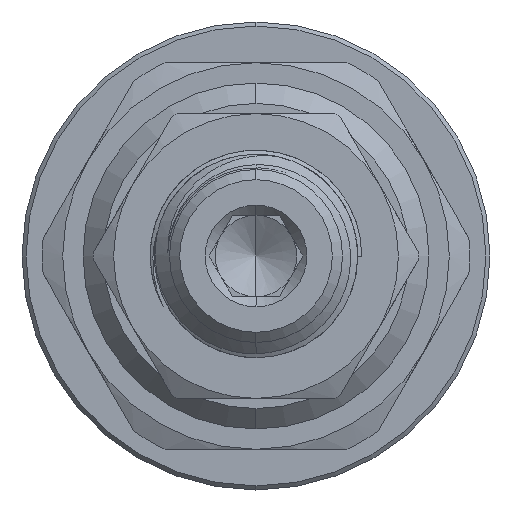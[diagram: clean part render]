
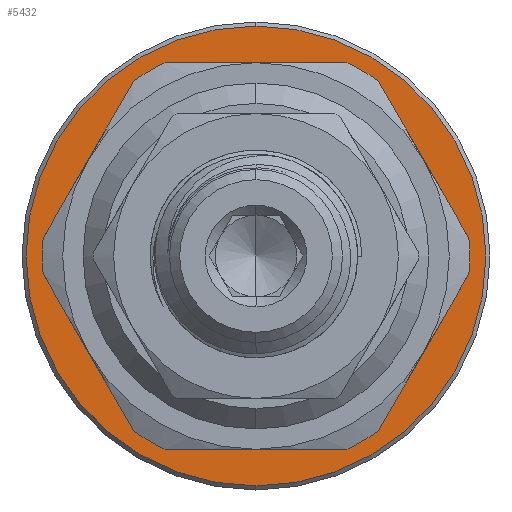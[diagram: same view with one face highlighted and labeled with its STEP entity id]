
A CAD part, left-side view. The second image highlights one B-rep face of the part: STEP entity #5432.
In plain terms, the highlighted planar face has unit normal (-1, 0, 0).
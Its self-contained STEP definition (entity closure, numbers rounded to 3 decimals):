
#321 = CARTESIAN_POINT ( 'NONE',  ( -18.729, 12.643, 0.877 ) ) ;
#541 = ORIENTED_EDGE ( 'NONE', *, *, #12375, .F. ) ;
#623 = CARTESIAN_POINT ( 'NONE',  ( -18.729, 2.179, -11.3 ) ) ;
#794 = CIRCLE ( 'NONE', #17311, 10.5 ) ;
#858 = CARTESIAN_POINT ( 'NONE',  ( -18.729, -8.284, -0.877 ) ) ;
#904 = CARTESIAN_POINT ( 'NONE',  ( -18.729, -3.812, 8.623 ) ) ;
#928 = EDGE_CURVE ( 'NONE', #2138, #5503, #5532, .T. ) ;
#1032 = DIRECTION ( 'NONE',  ( -1., 0., 0. ) ) ;
#1080 = CARTESIAN_POINT ( 'NONE',  ( -18.729, -2.293, 9.5 ) ) ;
#1430 = EDGE_CURVE ( 'NONE', #11497, #5741, #12628, .T. ) ;
#2138 = VERTEX_POINT ( 'NONE', #14778 ) ;
#2178 = ORIENTED_EDGE ( 'NONE', *, *, #18066, .F. ) ;
#2241 = FACE_BOUND ( 'NONE', #10807, .T. ) ;
#2465 = VECTOR ( 'NONE', #8482, 1000. ) ;
#2498 = ORIENTED_EDGE ( 'NONE', *, *, #16670, .F. ) ;
#2742 = ORIENTED_EDGE ( 'NONE', *, *, #1430, .T. ) ;
#3179 = AXIS2_PLACEMENT_3D ( 'NONE', #16519, #8227, #17920 ) ;
#3307 = EDGE_CURVE ( 'NONE', #5503, #14994, #16894, .T. ) ;
#3331 = CARTESIAN_POINT ( 'NONE',  ( -18.729, -8.284, -0.877 ) ) ;
#3547 = ORIENTED_EDGE ( 'NONE', *, *, #10769, .F. ) ;
#3958 = CARTESIAN_POINT ( 'NONE',  ( -18.729, 2.179, 0. ) ) ;
#3974 = LINE ( 'NONE', #904, #7248 ) ;
#4105 = DIRECTION ( 'NONE',  ( -1., 0., 0. ) ) ;
#4143 = ORIENTED_EDGE ( 'NONE', *, *, #5082, .F. ) ;
#4351 = CARTESIAN_POINT ( 'NONE',  ( -18.729, 12.643, 0.877 ) ) ;
#4556 = CIRCLE ( 'NONE', #14861, 11.3 ) ;
#4691 = DIRECTION ( 'NONE',  ( 1., 0., 0. ) ) ;
#4737 = LINE ( 'NONE', #4351, #7974 ) ;
#4985 = LINE ( 'NONE', #3331, #15125 ) ;
#5082 = EDGE_CURVE ( 'NONE', #9074, #2138, #14864, .T. ) ;
#5107 = ORIENTED_EDGE ( 'NONE', *, *, #928, .F. ) ;
#5395 = DIRECTION ( 'NONE',  ( 0., 0., -1. ) ) ;
#5432 = ADVANCED_FACE ( 'NONE', ( #2241, #5565 ), #11510, .F. ) ;
#5503 = VERTEX_POINT ( 'NONE', #17381 ) ;
#5532 = LINE ( 'NONE', #18016, #11992 ) ;
#5565 = FACE_OUTER_BOUND ( 'NONE', #12460, .T. ) ;
#5741 = VERTEX_POINT ( 'NONE', #858 ) ;
#5838 = DIRECTION ( 'NONE',  ( 0., 0.5, -0.866 ) ) ;
#5945 = ORIENTED_EDGE ( 'NONE', *, *, #3307, .F. ) ;
#5980 = ORIENTED_EDGE ( 'NONE', *, *, #7408, .T. ) ;
#6218 = LINE ( 'NONE', #7087, #2465 ) ;
#6297 = CARTESIAN_POINT ( 'NONE',  ( -18.729, 2.179, 0. ) ) ;
#6382 = CARTESIAN_POINT ( 'NONE',  ( -18.729, 2.179, 0. ) ) ;
#7087 = CARTESIAN_POINT ( 'NONE',  ( -18.729, 2.179, -9.5 ) ) ;
#7248 = VECTOR ( 'NONE', #9292, 1000. ) ;
#7408 = EDGE_CURVE ( 'NONE', #11528, #17828, #4556, .T. ) ;
#7553 = DIRECTION ( 'NONE',  ( 0., -0.5, 0.866 ) ) ;
#7571 = CARTESIAN_POINT ( 'NONE',  ( -18.729, 2.179, 0. ) ) ;
#7669 = DIRECTION ( 'NONE',  ( 0., 0., 1. ) ) ;
#7775 = DIRECTION ( 'NONE',  ( 0., 0., -1. ) ) ;
#7974 = VECTOR ( 'NONE', #5838, 1000. ) ;
#8034 = CARTESIAN_POINT ( 'NONE',  ( -18.729, 6.651, -9.5 ) ) ;
#8227 = DIRECTION ( 'NONE',  ( -1., 0., 0. ) ) ;
#8238 = ORIENTED_EDGE ( 'NONE', *, *, #9161, .F. ) ;
#8357 = DIRECTION ( 'NONE',  ( -1., 0., 0. ) ) ;
#8482 = DIRECTION ( 'NONE',  ( 0., -1., 0. ) ) ;
#8616 = VERTEX_POINT ( 'NONE', #10658 ) ;
#8690 = DIRECTION ( 'NONE',  ( 0., 1., 0. ) ) ;
#8964 = DIRECTION ( 'NONE',  ( 0., 0., 1. ) ) ;
#8995 = CARTESIAN_POINT ( 'NONE',  ( -18.729, -8.284, 0.877 ) ) ;
#9074 = VERTEX_POINT ( 'NONE', #321 ) ;
#9161 = EDGE_CURVE ( 'NONE', #8616, #9074, #4737, .T. ) ;
#9292 = DIRECTION ( 'NONE',  ( 0., 0.5, 0.866 ) ) ;
#9400 = CARTESIAN_POINT ( 'NONE',  ( -18.729, 2.179, 0. ) ) ;
#9554 = AXIS2_PLACEMENT_3D ( 'NONE', #12974, #4691, #14373 ) ;
#9742 = CARTESIAN_POINT ( 'NONE',  ( -18.729, 2.179, 11.3 ) ) ;
#9816 = VERTEX_POINT ( 'NONE', #17350 ) ;
#10624 = ORIENTED_EDGE ( 'NONE', *, *, #17494, .T. ) ;
#10658 = CARTESIAN_POINT ( 'NONE',  ( -18.729, 8.171, 8.623 ) ) ;
#10769 = EDGE_CURVE ( 'NONE', #11497, #16905, #3974, .T. ) ;
#10777 = ORIENTED_EDGE ( 'NONE', *, *, #11463, .F. ) ;
#10791 = DIRECTION ( 'NONE',  ( 0., 0., 1. ) ) ;
#10807 = EDGE_LOOP ( 'NONE', ( #8238, #2178, #2498, #17060, #3547, #2742, #10777, #18046, #541, #5945, #5107, #4143 ) ) ;
#10972 = EDGE_CURVE ( 'NONE', #13750, #17108, #794, .T. ) ;
#11463 = EDGE_CURVE ( 'NONE', #17108, #5741, #4985, .T. ) ;
#11497 = VERTEX_POINT ( 'NONE', #8995 ) ;
#11510 = PLANE ( 'NONE',  #9554 ) ;
#11528 = VERTEX_POINT ( 'NONE', #623 ) ;
#11992 = VECTOR ( 'NONE', #12076, 1000. ) ;
#12076 = DIRECTION ( 'NONE',  ( 0., -0.5, -0.866 ) ) ;
#12364 = CARTESIAN_POINT ( 'NONE',  ( -18.729, -3.812, -8.623 ) ) ;
#12375 = EDGE_CURVE ( 'NONE', #14994, #13750, #6218, .T. ) ;
#12396 = CARTESIAN_POINT ( 'NONE',  ( -18.729, 2.179, 0. ) ) ;
#12460 = EDGE_LOOP ( 'NONE', ( #5980, #10624 ) ) ;
#12628 = CIRCLE ( 'NONE', #16228, 10.5 ) ;
#12974 = CARTESIAN_POINT ( 'NONE',  ( -18.729, -9.256, -11.436 ) ) ;
#13615 = AXIS2_PLACEMENT_3D ( 'NONE', #7571, #17256, #8964 ) ;
#13659 = DIRECTION ( 'NONE',  ( -1., 0., 0. ) ) ;
#13750 = VERTEX_POINT ( 'NONE', #15406 ) ;
#13794 = DIRECTION ( 'NONE',  ( 0., 0., 1. ) ) ;
#13796 = LINE ( 'NONE', #16976, #17046 ) ;
#14373 = DIRECTION ( 'NONE',  ( 0., 1., 0. ) ) ;
#14605 = CIRCLE ( 'NONE', #13615, 10.5 ) ;
#14665 = EDGE_CURVE ( 'NONE', #16905, #17644, #15876, .T. ) ;
#14778 = CARTESIAN_POINT ( 'NONE',  ( -18.729, 12.643, -0.877 ) ) ;
#14861 = AXIS2_PLACEMENT_3D ( 'NONE', #3958, #13659, #5395 ) ;
#14864 = CIRCLE ( 'NONE', #14905, 10.5 ) ;
#14905 = AXIS2_PLACEMENT_3D ( 'NONE', #9400, #1032, #10791 ) ;
#14994 = VERTEX_POINT ( 'NONE', #8034 ) ;
#15125 = VECTOR ( 'NONE', #7553, 1000. ) ;
#15406 = CARTESIAN_POINT ( 'NONE',  ( -18.729, -2.293, -9.5 ) ) ;
#15477 = AXIS2_PLACEMENT_3D ( 'NONE', #12396, #4105, #13794 ) ;
#15573 = AXIS2_PLACEMENT_3D ( 'NONE', #6382, #16050, #7775 ) ;
#15876 = CIRCLE ( 'NONE', #3179, 10.5 ) ;
#15960 = DIRECTION ( 'NONE',  ( 1., 0., 0. ) ) ;
#16002 = CARTESIAN_POINT ( 'NONE',  ( -18.729, -3.812, 8.623 ) ) ;
#16050 = DIRECTION ( 'NONE',  ( -1., 0., 0. ) ) ;
#16228 = AXIS2_PLACEMENT_3D ( 'NONE', #6297, #15960, #7669 ) ;
#16519 = CARTESIAN_POINT ( 'NONE',  ( -18.729, 2.179, 0. ) ) ;
#16659 = CARTESIAN_POINT ( 'NONE',  ( -18.729, 2.179, 0. ) ) ;
#16670 = EDGE_CURVE ( 'NONE', #17644, #9816, #13796, .T. ) ;
#16894 = CIRCLE ( 'NONE', #15477, 10.5 ) ;
#16905 = VERTEX_POINT ( 'NONE', #16002 ) ;
#16976 = CARTESIAN_POINT ( 'NONE',  ( -18.729, 2.179, 9.5 ) ) ;
#17009 = CIRCLE ( 'NONE', #15573, 11.3 ) ;
#17046 = VECTOR ( 'NONE', #8690, 1000. ) ;
#17060 = ORIENTED_EDGE ( 'NONE', *, *, #14665, .F. ) ;
#17108 = VERTEX_POINT ( 'NONE', #12364 ) ;
#17256 = DIRECTION ( 'NONE',  ( -1., 0., 0. ) ) ;
#17311 = AXIS2_PLACEMENT_3D ( 'NONE', #16659, #8357, #18049 ) ;
#17350 = CARTESIAN_POINT ( 'NONE',  ( -18.729, 6.651, 9.5 ) ) ;
#17381 = CARTESIAN_POINT ( 'NONE',  ( -18.729, 8.171, -8.623 ) ) ;
#17494 = EDGE_CURVE ( 'NONE', #17828, #11528, #17009, .T. ) ;
#17644 = VERTEX_POINT ( 'NONE', #1080 ) ;
#17828 = VERTEX_POINT ( 'NONE', #9742 ) ;
#17920 = DIRECTION ( 'NONE',  ( 0., 0., 1. ) ) ;
#18016 = CARTESIAN_POINT ( 'NONE',  ( -18.729, 8.171, -8.623 ) ) ;
#18046 = ORIENTED_EDGE ( 'NONE', *, *, #10972, .F. ) ;
#18049 = DIRECTION ( 'NONE',  ( 0., 0., 1. ) ) ;
#18066 = EDGE_CURVE ( 'NONE', #9816, #8616, #14605, .T. ) ;
